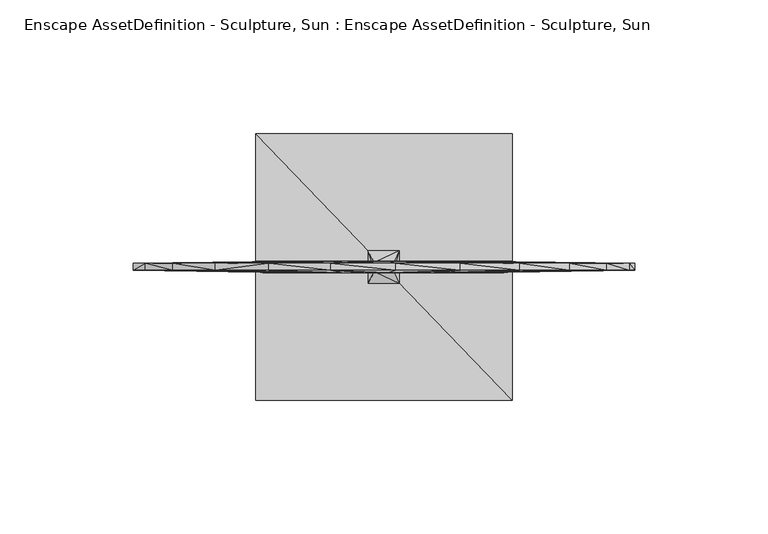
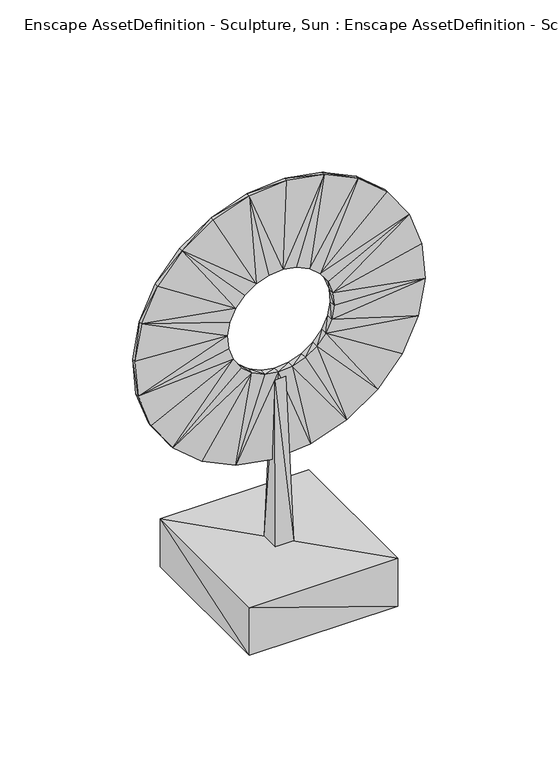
"""IFC4 building model written with IfcOpenShell, lengths in millimetres: geographic element geometry, Enscape AssetDefinition - Sculpture, Sun : Enscape AssetDefinition - Sculpture, Sun."""

from ifc_helpers import new_model, si_unit, origin, place, context, project, spatial, faceted_brep, source, transform, mapped, element, save


def enscape_assetdefinition_sculpture_sun_enscape_59169893(model_context):
    return source(origin(), model_context, "Body", "Brep", [
        faceted_brep([(-48.0399989, 50.0000007, -0.003), (48.0399989, -50.0000007, -0.003), (-48.0399989, -50.0000007, -0.003), (48.0399989, 50.0000007, -0.003), (-48.0399989, 50.0000007, 32.6769985), (48.0399989, -50.0000007, 32.6769985), (48.0399989, 50.0000007, 32.6769985), (-48.0399989, -50.0000007, 32.6769985)], [[[0, 1, 2]], [[3, 1, 0]], [[4, 5, 6]], [[7, 5, 4]], [[6, 0, 4]], [[3, 0, 6]], [[7, 1, 5]], [[2, 1, 7]], [[4, 2, 7]], [[0, 2, 4]], [[5, 3, 6]], [[1, 3, 5]]]),
        faceted_brep([(-6.0620001, -6.1849998, 32.6769985), (5.907, -6.2489999, 32.6769985), (-3.576, -1.724, 143.4579939), (-6.0620001, 6.1849998, 32.6769985), (5.907, 6.2489999, 32.6769985), (3.576, -1.724, 143.4579939), (-3.576, 1.724, 143.4579939), (3.576, 1.724, 143.4579939)], [[[0, 1, 2]], [[0, 2, 3]], [[1, 4, 5]], [[3, 6, 4]], [[6, 2, 7]], [[1, 0, 4]], [[2, 1, 5]], [[3, 2, 6]], [[5, 4, 7]], [[4, 6, 7]], [[7, 2, 5]], [[4, 0, 3]]]),
        faceted_brep([(1.631, -2.1170001, 217.5830007), (1.631, 2.2100001, 217.5830007), (10.4989996, -2.1170001, 215.9859985), (-7.3489998, -2.1170001, 216.8309987), (10.4989996, 2.2100001, 215.9859985), (28.5829995, 1.359, 272.623986), (4.4399998, 1.359, 276.9719958), (-20.0059991, 1.359, 274.9220133), (-7.3489998, 2.2100001, 216.8309987), (18.6519995, -2.1170001, 212.1489942), (18.6519995, 2.2100001, 212.1489942), (50.7789999, 1.359, 262.176007), (25.5340002, -2.1170001, 206.3309997), (50.7789999, -1.265, 262.176007), (28.5829995, -1.265, 272.623986), (25.5340002, 2.2100001, 206.3309997), (30.6749996, -2.1170001, 198.9309937), (69.5139989, 1.359, 246.3389933), (30.6749996, 2.2100001, 198.9309937), (83.5120007, 1.359, 226.1929959), (33.7270014, -2.1170001, 190.4529929), (33.7270014, 2.2100001, 190.4529929), (83.5120007, -1.265, 226.1929959), (34.4789997, -2.1170001, 181.4730018), (91.8190032, 1.359, 203.1099945), (34.4789997, 2.2100001, 181.4730018), (93.8680023, 1.359, 178.6639988), (91.8190032, -1.265, 203.1099945), (93.8680023, -1.265, 178.6639988), (32.8820013, -2.1170001, 172.604993), (32.8820013, 2.2100001, 172.604993), (29.0450007, -2.1170001, 164.4520015), (89.5199999, -1.265, 154.5210034), (69.5139989, -1.265, 246.3389933), (4.4399998, -1.265, 276.9719958), (-20.0059991, -1.265, 274.9220133), (-43.0889986, -1.265, 266.6159868), (-43.0889986, 1.359, 266.6159868), (-15.8270001, -2.1170001, 213.7790024), (-15.8270001, 2.2100001, 213.7790024), (-23.2270006, -2.1170001, 208.6379975), (-23.2270006, 2.2100001, 208.6379975), (-63.2349998, -1.265, 252.6180148), (-63.2349998, 1.359, 252.6180148), (-29.0450007, -2.1170001, 201.7560005), (-29.0450007, 2.2100001, 201.7560005), (-79.0719986, -1.265, 233.8829935), (-79.0719986, 1.359, 233.8829935), (-32.8820013, -2.1170001, 193.6029941), (-89.5199999, 1.359, 211.6869986), (-32.8820013, 2.2100001, 193.6029941), (-89.5199999, -1.265, 211.6869986), (-93.8680023, 1.359, 187.5440031), (-93.8680023, -1.265, 187.5440031), (-34.4789997, 2.2100001, 184.7350001), (-34.4789997, -2.1170001, 184.7350001), (-91.8190032, -1.265, 163.0980074), (-91.8190032, 1.359, 163.0980074), (-33.7270014, -2.1170001, 175.7549942), (-33.7270014, 2.2100001, 175.7549942), (-83.5120007, -1.265, 140.0150061), (-30.6759998, -2.1170001, 167.275995), (-83.5120007, 1.359, 140.0150061), (-30.6759998, 2.2100001, 167.275995), (-25.5340002, -2.1170001, 159.8760039), (-25.5340002, 2.2100001, 159.8760039), (-69.5139989, -1.265, 119.8690012), (-69.5139989, 1.359, 119.8690012), (-18.6519995, -2.1170001, 154.0589929), (-18.6519995, 2.2100001, 154.0589929), (-50.7789999, -1.265, 104.0320024), (-50.7789999, 1.359, 104.0320024), (-10.4989996, -2.1170001, 150.2210051), (-28.5839997, 1.359, 93.5840011), (-10.4989996, 2.2100001, 150.2210051), (-28.5839997, -1.265, 93.5840011), (-1.631, 2.2100001, 148.6240029), (-4.4399998, 1.359, 89.2359987), (-1.631, -2.1170001, 148.6240029), (-4.4399998, -1.265, 89.2359987), (20.0059991, 1.359, 91.2849978), (7.3489998, 2.2100001, 149.3770033), (7.3489998, -2.1170001, 149.3770033), (20.0059991, -1.265, 91.2849978), (43.0889986, 1.359, 99.5920002), (15.8270001, 2.2100001, 152.4280012), (15.8270001, -2.1170001, 152.4280012), (43.0889986, -1.265, 99.5920002), (23.2270006, 2.2100001, 157.5700045), (63.2349998, 1.359, 113.5900021), (23.2270006, -2.1170001, 157.5700045), (63.2349998, -1.265, 113.5900021), (29.0450007, 2.2100001, 164.4520015), (79.0719986, 1.359, 132.3249936), (79.0719986, -1.265, 132.3249936), (89.5199999, 1.359, 154.5210034)], [[[0, 1, 2]], [[0, 3, 1]], [[4, 1, 5]], [[6, 1, 7]], [[2, 1, 4]], [[1, 3, 8]], [[5, 1, 6]], [[7, 1, 8]], [[2, 4, 9]], [[10, 4, 11]], [[9, 4, 10]], [[11, 4, 5]], [[9, 10, 12]], [[9, 12, 13]], [[2, 9, 14]], [[14, 9, 13]], [[12, 10, 15]], [[11, 15, 10]], [[12, 15, 16]], [[17, 15, 11]], [[18, 15, 19]], [[16, 15, 18]], [[19, 15, 17]], [[20, 16, 21]], [[16, 20, 22]], [[21, 16, 18]], [[22, 12, 16]], [[19, 21, 18]], [[20, 21, 23]], [[24, 21, 19]], [[25, 21, 26]], [[23, 21, 25]], [[26, 21, 24]], [[27, 20, 28]], [[28, 20, 23]], [[22, 20, 27]], [[23, 25, 29]], [[23, 29, 28]], [[29, 25, 30]], [[26, 30, 25]], [[29, 30, 31]], [[29, 31, 32]], [[28, 29, 32]], [[27, 28, 24]], [[28, 32, 26]], [[24, 28, 26]], [[19, 27, 24]], [[22, 27, 19]], [[17, 22, 19]], [[33, 22, 17]], [[11, 33, 17]], [[33, 12, 22]], [[13, 33, 11]], [[13, 12, 33]], [[5, 13, 11]], [[14, 13, 5]], [[6, 14, 5]], [[34, 14, 6]], [[34, 0, 14]], [[14, 0, 2]], [[7, 34, 6]], [[35, 34, 7]], [[35, 0, 34]], [[3, 0, 35]], [[36, 35, 37]], [[36, 38, 35]], [[37, 35, 7]], [[35, 38, 3]], [[8, 39, 7]], [[7, 39, 37]], [[38, 39, 3]], [[38, 40, 39]], [[39, 41, 37]], [[3, 39, 8]], [[39, 40, 41]], [[40, 38, 42]], [[42, 38, 36]], [[37, 42, 36]], [[43, 42, 37]], [[37, 41, 43]], [[40, 44, 41]], [[41, 45, 43]], [[41, 44, 45]], [[42, 44, 40]], [[46, 42, 47]], [[46, 44, 42]], [[47, 42, 43]], [[43, 45, 47]], [[44, 48, 45]], [[47, 45, 49]], [[45, 48, 50]], [[49, 45, 50]], [[48, 44, 51]], [[51, 44, 46]], [[51, 46, 49]], [[49, 46, 47]], [[52, 53, 49]], [[50, 54, 49]], [[49, 53, 51]], [[49, 54, 52]], [[48, 55, 50]], [[50, 55, 54]], [[51, 55, 48]], [[53, 55, 51]], [[52, 56, 53]], [[56, 55, 53]], [[57, 56, 52]], [[52, 54, 57]], [[55, 58, 54]], [[54, 58, 59]], [[57, 54, 59]], [[58, 55, 56]], [[60, 61, 56]], [[57, 60, 56]], [[56, 61, 58]], [[62, 60, 57]], [[59, 63, 57]], [[57, 63, 62]], [[58, 63, 59]], [[61, 63, 58]], [[64, 65, 61]], [[64, 61, 66]], [[61, 65, 63]], [[66, 61, 60]], [[62, 66, 60]], [[67, 66, 62]], [[62, 63, 67]], [[67, 63, 65]], [[64, 68, 65]], [[65, 69, 67]], [[65, 68, 69]], [[66, 68, 64]], [[70, 66, 71]], [[70, 68, 66]], [[71, 66, 67]], [[67, 69, 71]], [[68, 72, 69]], [[71, 69, 73]], [[69, 72, 74]], [[73, 69, 74]], [[72, 68, 75]], [[75, 68, 70]], [[75, 70, 73]], [[73, 70, 71]], [[74, 76, 73]], [[77, 75, 73]], [[73, 76, 77]], [[72, 76, 74]], [[78, 76, 72]], [[75, 78, 72]], [[79, 75, 77]], [[79, 78, 75]], [[77, 76, 80]], [[80, 79, 77]], [[78, 81, 76]], [[80, 76, 81]], [[82, 81, 78]], [[82, 78, 83]], [[83, 78, 79]], [[83, 79, 80]], [[80, 81, 84]], [[84, 83, 80]], [[82, 85, 81]], [[84, 81, 85]], [[86, 85, 82]], [[86, 82, 87]], [[87, 82, 83]], [[87, 83, 84]], [[85, 88, 84]], [[89, 87, 84]], [[84, 88, 89]], [[86, 88, 85]], [[90, 88, 86]], [[87, 90, 86]], [[91, 87, 89]], [[91, 90, 87]], [[88, 92, 89]], [[93, 91, 89]], [[89, 92, 93]], [[90, 92, 88]], [[31, 92, 90]], [[91, 31, 90]], [[94, 91, 93]], [[94, 31, 91]], [[93, 92, 95]], [[95, 94, 93]], [[31, 30, 92]], [[95, 92, 30]], [[32, 31, 94]], [[32, 94, 95]], [[95, 30, 26]], [[26, 32, 95]]]),
    ])


if __name__ == "__main__":
    model = new_model("IFC4")
    model_context = context("Model", 3, world=origin())
    ifc_project = project(units=[si_unit("LENGTHUNIT", "METRE", prefix="MILLI")], contexts=[model_context])
    site = spatial("IfcSite", under=ifc_project)
    building = spatial("IfcBuilding", under=site)
    placement = place(None, origin())
    enscape_assetdefinition_sculpture_sun_enscape_shape = enscape_assetdefinition_sculpture_sun_enscape_59169893(model_context)
    element("IfcGeographicElement", 1, ObjectType="Enscape AssetDefinition - Sculpture, Sun : Enscape AssetDefinition - Sculpture, Sun", at=placement, inside=building, context=model_context, shape_type="MappedRepresentation", body=[
        mapped(enscape_assetdefinition_sculpture_sun_enscape_shape, transform((0.0, 0.0, 0.0), x_axis=(1.0, 0.0, 0.0), y_axis=(0.0, 1.0, 0.0), z_axis=(0.0, 0.0, 1.0))),
    ])
    save(model, "model.ifc")
